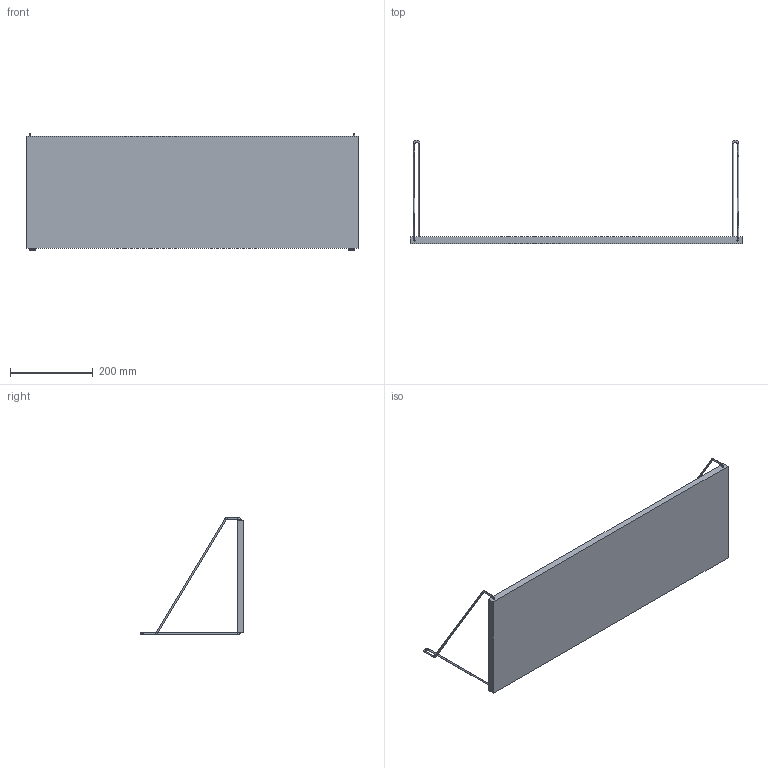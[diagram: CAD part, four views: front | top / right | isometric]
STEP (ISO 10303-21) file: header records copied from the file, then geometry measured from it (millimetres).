
FILE_DESCRIPTION (( 'STEP AP214' ), '1' );
FILE_NAME ('Shelf - D27 W80.STEP', '2019-09-03T13:31:48', ( '' ), ( '' ), 'SwSTEP 2.0', 'SolidWorks 2017', '' );
FILE_SCHEMA (( 'AUTOMOTIVE_DESIGN' ));
Length unit declared in the file: millimetre
Products named in the file (4): D27 W80 - Board; D27 - Bracket R; Shelf - D27 W80; D27 - Bracket L
Assembly tree (3 placements, depth 2):
  Shelf - D27 W80
    D27 - Bracket L
    D27 - Bracket R
    D27 W80 - Board
Bounding box: 800 x 249.21 x 281.77 mm (x, y, z)
Volume: 3471549.9 mm3; surface area: 484970.2 mm2
Topology: 3 solids, 3 shells, 72 faces, 152 edges, 92 vertices
Faces by surface type: cylinder 36, torus 20, plane 16
Entity records: 2110 total; most frequent: DIRECTION 412, CARTESIAN_POINT 322, ORIENTED_EDGE 304, AXIS2_PLACEMENT_3D 182, EDGE_CURVE 152, CIRCLE 104, VERTEX_POINT 92, EDGE_LOOP 78
